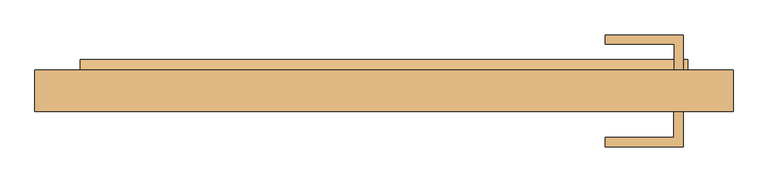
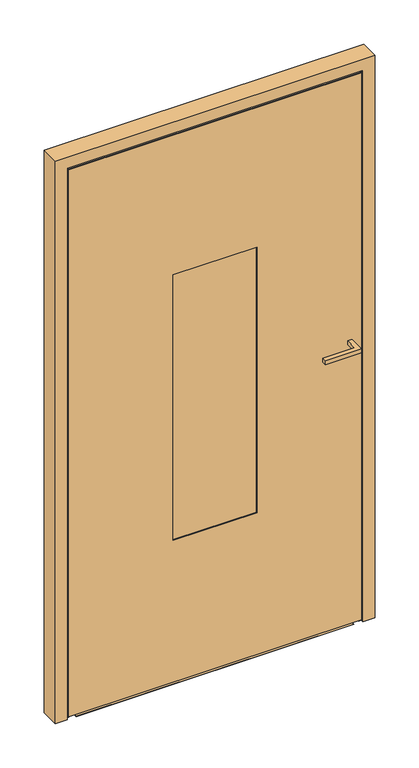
"""IFC4 building model written with IfcOpenShell, lengths in millimetres: door geometry, Reynaers_CS 77_Door_Panel_Inward Opening_Single Vent_Spy Window : Reynaers_CS 77_Door_Panel_Inward Opening_Single Vent_Spy Window."""

from ifc_helpers import new_model, si_unit, point, frame, frame_2d, origin, place, context, project, spatial, polyline, circle_curve, trimmed, segment, composite_curve, outline, extrude, faceted_brep, source, transform, mapped, element, save


def door_0151d565(model_context):
    return source(origin(), model_context, "Body", "SolidModel", [
        extrude(outline(polyline([(488.7934348, 80.0), (473.7934348, 80.0), (473.7934348, 122.5), (361.2934348, 122.5), (361.2934348, 137.5), (488.7934348, 137.5), (488.7934348, 80.0)])), frame((0.0, 0.0, 1062.5), z_axis=(0.0, 0.0, 1.0), x_axis=(1.0, 0.0, 0.0)), (0.0, 0.0, 1.0), 15.0),
        extrude(outline(polyline([(488.5, 12.0), (488.5, -45.5), (361.0, -45.5), (361.0, -30.5), (473.5, -30.5), (473.5, 12.0), (488.5, 12.0)])), frame((0.0, 0.0, 1062.5), z_axis=(0.0, 0.0, 1.0), x_axis=(1.0, 0.0, 0.0)), (0.0, 0.0, 1.0), 15.0),
        extrude(outline(polyline([(-172.5, 19.0), (-172.5, 25.0), (172.5118321, 25.0), (172.5118321, 19.0), (-172.5, 19.0)])), frame((0.0, 0.0, 524.0), z_axis=(0.0, 0.0, 1.0), x_axis=(1.0, 0.0, 0.0)), (0.0, 0.0, 1.0), 1040.0),
        extrude(outline(polyline([(-172.5, 43.0), (-172.5, 49.0), (172.5118321, 49.0), (172.5118321, 43.0), (-172.5, 43.0)])), frame((0.0, 0.0, 524.0), z_axis=(0.0, 0.0, 1.0), x_axis=(1.0, 0.0, 0.0)), (0.0, 0.0, 1.0), 1040.0),
        extrude(outline(polyline([(-172.5, 67.0), (-172.5, 73.0), (172.5118321, 73.0), (172.5118321, 67.0), (-172.5, 67.0)])), frame((0.0, 0.0, 524.0), z_axis=(0.0, 0.0, 1.0), x_axis=(1.0, 0.0, 0.0)), (0.0, 0.0, 1.0), 1040.0),
        extrude(outline(polyline([(439.0, 15.0), (-439.0, 15.0), (-439.0, 77.0), (439.0, 77.0), (439.0, 15.0)])), frame((0.0, 0.0, 93.5), z_axis=(0.0, 0.0, 1.0), x_axis=(1.0, 0.0, 0.0)), (0.0, 0.0, 1.0), 380.5),
        extrude(outline(polyline([(1939.0, 439.0), (1939.0, -439.0), (524.0, -439.0), (524.0, -175.0), (1569.0, -175.0), (1569.0, 175.0), (524.0, 175.0), (524.0, 439.0), (1939.0, 439.0)])), frame((0.0, 15.0, 0.0), z_axis=(0.0, 1.0, 0.0), x_axis=(0.0, 0.0, 1.0)), (0.0, 0.0, 1.0), 62.0),
        extrude(outline(polyline([(2071.0, 521.5), (2071.0, -522.0), (10.5, -522.0), (10.5, 521.5), (2071.0, 521.5)]), holes=[polyline([(1544.0, -150.0), (1544.0, 150.0), (544.0, 150.0), (544.0, -150.0), (1544.0, -150.0)])]), frame((0.0, 12.0, 0.0), z_axis=(0.0, 1.0, 0.0), x_axis=(0.0, 0.0, 1.0)), (0.0, 0.0, 1.0), 3.0),
        extrude(outline(polyline([(1996.0, 496.0), (1996.0, -496.0), (37.0, -496.0), (37.0, 496.0), (1996.0, 496.0)]), holes=[polyline([(1544.0, -150.0), (1544.0, 150.0), (544.0, 150.0), (544.0, -150.0), (1544.0, -150.0)])]), frame((0.0, 77.0, 0.0), z_axis=(0.0, 1.0, 0.0), x_axis=(0.0, 0.0, 1.0)), (0.0, 0.0, 1.0), 3.0),
        faceted_brep([(444.0, 15.0, 1993.0), (444.0, 76.6, 1993.0), (444.0, 76.6, 88.5), (444.0, 15.0, 88.5), (496.0, 76.6, 2045.0), (496.0, 76.6, 36.5), (-496.0, 76.6, 36.5), (-496.0, 76.6, 2045.0), (-444.0, 76.6, 1993.0), (-444.0, 76.6, 88.5), (-444.0, 15.0, 88.5), (-522.0, 15.0, 2071.0), (-522.0, 15.0, 10.5), (522.0, 15.0, 10.5), (522.0, 15.0, 2071.0), (-444.0, 15.0, 1993.0), (522.0, 20.8, 2071.0), (522.0, 20.8, 10.5), (-522.0, 20.8, 10.5), (-522.0, 20.8, 2071.0), (-507.0, 20.8, 2056.0), (-507.0, 20.8, 25.5), (507.0, 20.8, 25.5), (507.0, 20.8, 2056.0), (-507.0, 71.2, 25.5), (-507.0, 71.2, 2056.0), (507.0, 71.2, 25.5), (507.0, 71.2, 2056.0), (-496.0, 71.2, 2045.0), (-496.0, 71.2, 36.5), (496.0, 71.2, 36.5), (496.0, 71.2, 2045.0)], [[[0, 1, 2, 3]], [[4, 5, 6, 7], [8, 9, 2, 1]], [[3, 2, 9, 10]], [[11, 12, 13, 14], [0, 3, 10, 15]], [[16, 14, 13, 17]], [[17, 13, 12, 18]], [[16, 17, 18, 19], [20, 21, 22, 23]], [[10, 9, 8, 15]], [[18, 12, 11, 19]], [[24, 21, 20, 25]], [[26, 22, 21, 24]], [[27, 23, 22, 26]], [[27, 26, 24, 25], [28, 29, 30, 31]], [[4, 31, 30, 5]], [[5, 30, 29, 6]], [[6, 29, 28, 7]], [[15, 8, 1, 0]], [[19, 11, 14, 16]], [[25, 20, 23, 27]], [[7, 28, 31, 4]]]),
        faceted_brep([(-502.0, 76.2, 0.0), (-517.0, 76.2, 0.0), (-517.0, 20.8, 0.0), (-528.0, 20.8, 0.0), (-528.0, 12.0, 0.0), (-570.0, 12.0, 0.0), (-570.0, 80.0, 0.0), (-502.0, 80.0, 0.0), (-502.0, 76.2, 2052.0), (502.0, 76.2, 2052.0), (502.0, 76.2, 0.0), (517.0, 76.2, 0.0), (517.0, 76.2, 2067.0), (-517.0, 76.2, 2067.0), (-517.0, 20.8, 2067.0), (517.0, 20.8, 2067.0), (517.0, 20.8, 0.0), (528.0, 20.8, 0.0), (528.0, 20.8, 2078.0), (-528.0, 20.8, 2078.0), (-528.0, 12.0, 2078.0), (528.0, 12.0, 2078.0), (528.0, 12.0, 0.0), (570.0, 12.0, 0.0), (570.0, 12.0, 2120.0), (-570.0, 12.0, 2120.0), (-570.0, 80.0, 2120.0), (570.0, 80.0, 2120.0), (570.0, 80.0, 0.0), (502.0, 80.0, 0.0), (502.0, 80.0, 2052.0), (-502.0, 80.0, 2052.0)], [[[0, 1, 2, 3, 4, 5, 6, 7]], [[1, 0, 8, 9, 10, 11, 12, 13]], [[2, 1, 13, 14]], [[3, 2, 14, 15, 16, 17, 18, 19]], [[4, 3, 19, 20]], [[5, 4, 20, 21, 22, 23, 24, 25]], [[6, 5, 25, 26]], [[7, 6, 26, 27, 28, 29, 30, 31]], [[0, 7, 31, 8]], [[10, 9, 30, 29]], [[11, 10, 29, 28, 23, 22, 17, 16]], [[12, 11, 16, 15]], [[28, 27, 24, 23]], [[17, 22, 21, 18]], [[26, 25, 24, 27]], [[9, 8, 31, 30]], [[13, 12, 15, 14]], [[21, 20, 19, 18]]]),
        extrude(outline(polyline([(12.0, 1.9998842), (21.0, 2.4715542), (21.0, 12.0), (66.0392099, 12.0), (72.2418049, 19.3919648), (80.0, 13.9596181), (80.0, 1.0), (12.0, 1.0), (12.0, 1.9998842)])), frame((-496.0, 0.0, 0.0), z_axis=(1.0, 0.0, 0.0), x_axis=(0.0, 1.0, 0.0)), (0.0, 0.0, 1.0), 992.0),
        extrude(outline(composite_curve([segment(polyline([(80.0, 36.8999932), (80.0, 38.6874872), (97.0, 32.4999932), (97.0, 23.8999932), (70.0709002, 23.8999932)]), True, "CONTINUOUS"), segment(trimmed(circle_curve(frame_2d((69.6934432, 20.5338193)), 3.3872704), [point((70.0709002, 23.8999932))], [point((68.8243396, 17.259944))], False, "CARTESIAN"), True, "CONTINUOUS"), segment(trimmed(circle_curve(frame_2d((71.3621384, 25.7049218)), 8.8180539), [point((68.8243396, 17.259944))], [point((64.0318662, 20.8033727))], False, "CARTESIAN"), True, "CONTINUOUS"), segment(trimmed(circle_curve(frame_2d((55.7237753, 13.6442063)), 10.9671344), [point((64.0318662, 20.8033727))], [point((60.6220903, 23.4566753))], True, "CARTESIAN"), True, "CONTINUOUS"), segment(polyline([(60.6220903, 23.4566753), (60.6220903, 24.4999932), (71.2, 24.4999932), (71.2, 34.5420403), (80.0, 36.8999932)]), True, "CONTINUOUS")], self_intersect=False)), frame((-496.0, 0.0, 0.0), z_axis=(1.0, 0.0, 0.0), x_axis=(0.0, 1.0, 0.0)), (0.0, 0.0, 1.0), 992.0),
        extrude(outline(polyline([(76.5, 519.0097656), (76.5, 479.5157656), (49.2980611, 479.5157656), (49.2980611, 484.1096048), (17.3, 484.1096048), (17.3, 479.0096694), (15.3, 479.0096694), (15.3, 519.0096694), (17.3, 519.0096694), (17.3, 513.9099264), (49.3019222, 513.9099264), (49.3019222, 519.0097656), (76.5, 519.0097656)])), frame((-439.0, 0.0, 0.0), z_axis=(1.0, 0.0, 0.0), x_axis=(0.0, 1.0, 0.0)), (0.0, 0.0, 1.0), 878.0),
    ])


if __name__ == "__main__":
    model = new_model("IFC4")
    model_context = context("Model", 3, world=origin())
    ifc_project = project(units=[si_unit("LENGTHUNIT", "METRE", prefix="MILLI")], contexts=[model_context])
    site = spatial("IfcSite", under=ifc_project)
    building = spatial("IfcBuilding", under=site)
    placement = place(None, origin())
    door_shape = door_0151d565(model_context)
    element("IfcDoor", 1, ObjectType="Reynaers_CS 77_Door_Panel_Inward Opening_Single Vent_Spy Window : Reynaers_CS 77_Door_Panel_Inward Opening_Single Vent_Spy Window", at=placement, inside=building, context=model_context, shape_type="MappedRepresentation", body=[
        mapped(door_shape, transform((0.0, 0.0, 0.0), x_axis=(1.0, 0.0, 0.0), y_axis=(0.0, 1.0, 0.0), z_axis=(0.0, 0.0, 1.0))),
    ])
    save(model, "model.ifc")
